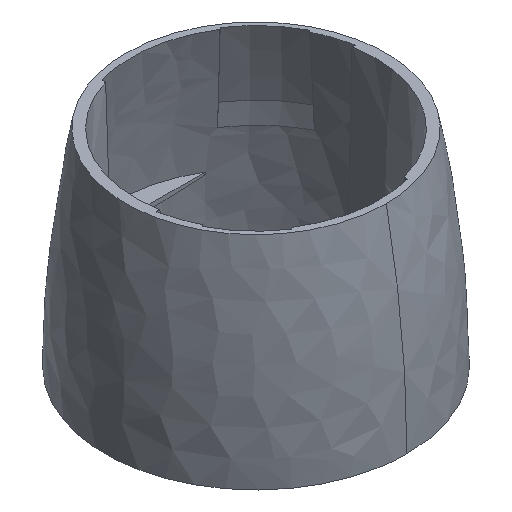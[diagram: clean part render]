
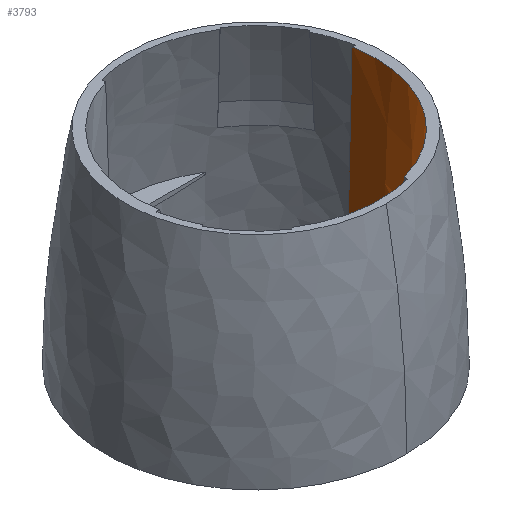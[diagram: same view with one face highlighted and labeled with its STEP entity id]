
A CAD part, isometric view. The second image highlights one B-rep face of the part: STEP entity #3793.
In plain terms, the highlighted conical face has half-angle 2 degrees and reference radius 36.859 mm.
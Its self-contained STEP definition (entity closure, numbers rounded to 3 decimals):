
#136=CARTESIAN_POINT('',(0.,0.,0.));
#137=DIRECTION('',(0.,0.,1.));
#138=DIRECTION('',(0.263,-0.965,0.));
#139=AXIS2_PLACEMENT_3D('',#136,#137,#138);
#542=CARTESIAN_POINT('',(0.,0.,-63.));
#543=DIRECTION('',(0.,0.,-1.));
#544=DIRECTION('',(0.983,0.182,0.));
#545=AXIS2_PLACEMENT_3D('',#542,#543,#544);
#613=CARTESIAN_POINT('',(36.092,-6.757,-35.5));
#614=CARTESIAN_POINT('',(35.988,-6.731,-38.556));
#615=CARTESIAN_POINT('',(35.781,-6.677,-44.667));
#616=CARTESIAN_POINT('',(35.47,-6.597,-53.833));
#617=CARTESIAN_POINT('',(35.263,-6.544,-59.944));
#618=CARTESIAN_POINT('',(35.16,-6.517,-63.));
#623=CARTESIAN_POINT('',(35.16,6.517,-63.));
#624=CARTESIAN_POINT('',(35.397,6.579,-56.));
#625=CARTESIAN_POINT('',(35.872,6.701,-42.));
#626=CARTESIAN_POINT('',(36.583,6.884,-21.));
#627=CARTESIAN_POINT('',(37.058,7.006,-7.));
#628=CARTESIAN_POINT('',(37.295,7.067,0.));
#633=CARTESIAN_POINT('',(10.,-36.618,
0.));
#634=CARTESIAN_POINT('',(10.,-36.48,-3.81));
#635=CARTESIAN_POINT('',(10.,-36.204,-11.432));
#636=CARTESIAN_POINT('',(10.,-35.789,-22.865));
#637=CARTESIAN_POINT('',(10.,-35.513,-30.488));
#638=CARTESIAN_POINT('',(10.,-35.375,-34.3));
#643=CARTESIAN_POINT('',(0.,0.,-34.3));
#644=DIRECTION('',(0.,0.,-1.));
#645=DIRECTION('',(0.979,-0.204,0.));
#646=AXIS2_PLACEMENT_3D('',#643,#644,#645);
#719=CARTESIAN_POINT('',(0.,0.,-35.5));
#720=DIRECTION('',(0.,0.,-1.));
#721=DIRECTION('',(0.983,-0.184,0.));
#722=AXIS2_PLACEMENT_3D('',#719,#720,#721);
#2614=CARTESIAN_POINT('',(35.945,-7.498,-35.5));
#2615=CARTESIAN_POINT('',(35.95,-7.498,
-35.367));
#2616=CARTESIAN_POINT('',(35.959,-7.501,
-35.1));
#2617=CARTESIAN_POINT('',(35.973,-7.499,
-34.7));
#2618=CARTESIAN_POINT('',(35.983,-7.502,
-34.433));
#2619=CARTESIAN_POINT('',(35.987,-7.502,-34.3));
#2969=CARTESIAN_POINT('',(10.,-36.618,
0.));
#2970=CARTESIAN_POINT('',(37.295,7.067,
0.));
#2971=VERTEX_POINT('',#2969);
#2972=VERTEX_POINT('',#2970);
#3071=CARTESIAN_POINT('',(35.16,6.517,-63.));
#3073=VERTEX_POINT('',#3071);
#3074=CARTESIAN_POINT('',(35.16,-6.517,-63.));
#3075=VERTEX_POINT('',#3074);
#3078=CARTESIAN_POINT('',(35.988,-7.501,-34.3));
#3079=CARTESIAN_POINT('',(10.,-35.375,-34.3));
#3080=VERTEX_POINT('',#3078);
#3081=VERTEX_POINT('',#3079);
#3082=VERTEX_POINT('',#2614);
#3083=CARTESIAN_POINT('',(36.092,-6.757,-35.5));
#3084=VERTEX_POINT('',#3083);
#3773=CARTESIAN_POINT('',(0.,0.,-31.5));
#3774=DIRECTION('',(0.,0.,1.));
#3775=DIRECTION('',(0.,-1.,0.));
#3776=AXIS2_PLACEMENT_3D('',#3773,#3774,#3775);
#3777=CONICAL_SURFACE('',#3776,36.859,2.);
#3779=ORIENTED_EDGE('',*,*,#3778,.F.);
#3781=ORIENTED_EDGE('',*,*,#3780,.F.);
#3783=ORIENTED_EDGE('',*,*,#3782,.F.);
#3785=ORIENTED_EDGE('',*,*,#3784,.T.);
#3786=ORIENTED_EDGE('',*,*,#3741,.F.);
#3787=ORIENTED_EDGE('',*,*,#3761,.T.);
#3788=ORIENTED_EDGE('',*,*,#3315,.F.);
#3790=ORIENTED_EDGE('',*,*,#3789,.T.);
#3791=EDGE_LOOP('',(#3779,#3781,#3783,#3785,#3786,#3787,#3788,#3790));
#3792=FACE_OUTER_BOUND('',#3791,.F.);
#140=CIRCLE('',#139,37.959);
#546=CIRCLE('',#545,35.759);
#619=B_SPLINE_CURVE_WITH_KNOTS('',3,(#613,#614,#615,#616,#617,#618),
.UNSPECIFIED.,.F.,.F.,(4,1,1,4),(0.,0.333,0.667,1.),
.UNSPECIFIED.);
#629=B_SPLINE_CURVE_WITH_KNOTS('',3,(#623,#624,#625,#626,#627,#628),
.UNSPECIFIED.,.F.,.F.,(4,1,1,4),(0.,0.333,0.667,1.),
.UNSPECIFIED.);
#639=B_SPLINE_CURVE_WITH_KNOTS('',3,(#633,#634,#635,#636,#637,#638),
.UNSPECIFIED.,.F.,.F.,(4,1,1,4),(0.,0.333,0.667,1.),
.UNSPECIFIED.);
#647=CIRCLE('',#646,36.761);
#723=CIRCLE('',#722,36.719);
#2620=B_SPLINE_CURVE_WITH_KNOTS('',3,(#2614,#2615,#2616,#2617,#2618,#2619),
.UNSPECIFIED.,.F.,.F.,(4,1,1,4),(0.,0.333,0.667,1.),
.UNSPECIFIED.);
#3315=EDGE_CURVE('',#2971,#2972,#140,.T.);
#3741=EDGE_CURVE('',#3073,#3075,#546,.T.);
#3761=EDGE_CURVE('',#3073,#2972,#629,.T.);
#3778=EDGE_CURVE('',#3080,#3081,#647,.T.);
#3780=EDGE_CURVE('',#3082,#3080,#2620,.T.);
#3782=EDGE_CURVE('',#3084,#3082,#723,.T.);
#3784=EDGE_CURVE('',#3084,#3075,#619,.T.);
#3789=EDGE_CURVE('',#2971,#3081,#639,.T.);
#3793=ADVANCED_FACE('',(#3792),#3777,.F.);
